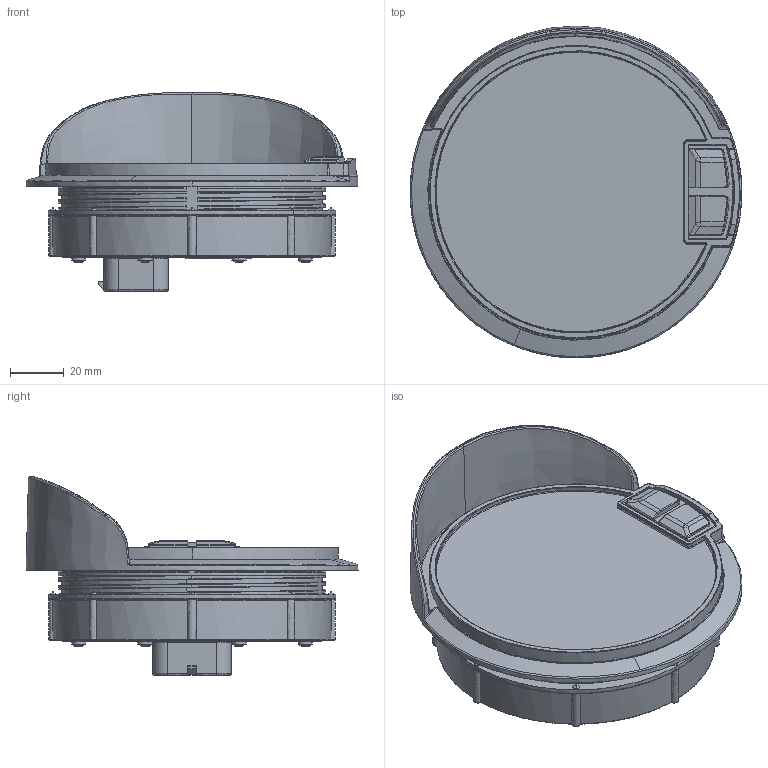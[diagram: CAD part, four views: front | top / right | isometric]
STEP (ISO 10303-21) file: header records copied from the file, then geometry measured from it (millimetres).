
FILE_DESCRIPTION(/* description */ (''),/* implementation_level */ '2;1');
FILE_NAME(/* name */ '425_1134 Strumento D100 TFT con protezione - modello sicuro',/* time_stamp */ '2021-09-06T10:58:01+02:00',/* author */ (''),/* organization */ (''),/* preprocessor_version */ 'ST-DEVELOPER v15',/* originating_system */ '',/* authorisation */ '');
FILE_SCHEMA (('AUTOMOTIVE_DESIGN_CC2'));
Length unit declared in the file: millimetre
Products named in the file (1): Document
Bounding box: 123.16 x 123.21 x 73.6 mm (x, y, z)
Volume: 302423 mm3; surface area: 51238.2 mm2
Topology: 1 solids, 1 shells, 802 faces, 1990 edges, 1200 vertices
Faces by surface type: bspline 556, plane 246
Entity records: 49035 total; most frequent: CARTESIAN_POINT 37193, ORIENTED_EDGE 3894, EDGE_CURVE 1947, B_SPLINE_CURVE_WITH_KNOTS 1292, VERTEX_POINT 1200, EDGE_LOOP 855, ADVANCED_FACE 802, FACE_OUTER_BOUND 802
